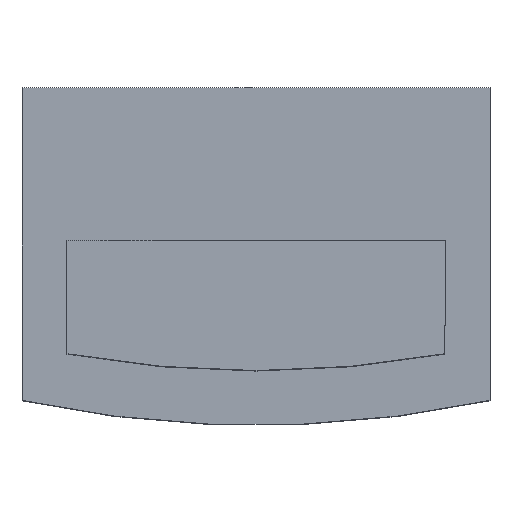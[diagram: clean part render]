
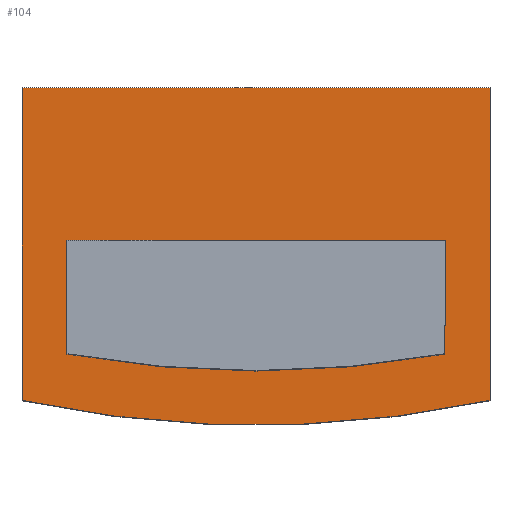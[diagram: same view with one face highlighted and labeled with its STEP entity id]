
A CAD part, top view. The second image highlights one B-rep face of the part: STEP entity #104.
In plain terms, the highlighted planar face has unit normal (0, 0, 1).
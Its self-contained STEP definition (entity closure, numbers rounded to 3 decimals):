
#8 = ORIENTED_EDGE ( 'NONE', *, *, #183, .F. ) ;
#20 = LINE ( 'NONE', #162, #319 ) ;
#34 = VERTEX_POINT ( 'NONE', #186 ) ;
#40 = DIRECTION ( 'NONE',  ( 0., 0., 1. ) ) ;
#46 = VERTEX_POINT ( 'NONE', #330 ) ;
#51 = DIRECTION ( 'NONE',  ( 1., 0., 0. ) ) ;
#58 = EDGE_CURVE ( 'NONE', #34, #46, #250, .T. ) ;
#67 = FACE_OUTER_BOUND ( 'NONE', #71, .T. ) ;
#71 = EDGE_LOOP ( 'NONE', ( #359, #211, #8, #203 ) ) ;
#80 = AXIS2_PLACEMENT_3D ( 'NONE', #367, #100, #221 ) ;
#88 = VERTEX_POINT ( 'NONE', #158 ) ;
#96 = EDGE_CURVE ( 'NONE', #208, #236, #252, .T. ) ;
#100 = DIRECTION ( 'NONE',  ( 0., 0., 1. ) ) ;
#104 = ADVANCED_FACE ( 'NONE', ( #333, #67 ), #276, .T. ) ;
#109 = DIRECTION ( 'NONE',  ( 1., 0., 0. ) ) ;
#121 = EDGE_LOOP ( 'NONE', ( #352, #323, #307, #144 ) ) ;
#123 = VERTEX_POINT ( 'NONE', #306 ) ;
#126 = AXIS2_PLACEMENT_3D ( 'NONE', #285, #164, #109 ) ;
#127 = CIRCLE ( 'NONE', #126, 25. ) ;
#137 = CARTESIAN_POINT ( 'NONE',  ( 10.4, 0., 5. ) ) ;
#144 = ORIENTED_EDGE ( 'NONE', *, *, #58, .F. ) ;
#150 = VERTEX_POINT ( 'NONE', #137 ) ;
#158 = CARTESIAN_POINT ( 'NONE',  ( 9.4, 3.553, 5. ) ) ;
#161 = VERTEX_POINT ( 'NONE', #200 ) ;
#162 = CARTESIAN_POINT ( 'NONE',  ( 10.4, 0., 5. ) ) ;
#163 = CARTESIAN_POINT ( 'NONE',  ( 0., 0., 5. ) ) ;
#164 = DIRECTION ( 'NONE',  ( 0., 0., 1. ) ) ;
#166 = LINE ( 'NONE', #163, #369 ) ;
#170 = CARTESIAN_POINT ( 'NONE',  ( 1., 0., 5. ) ) ;
#180 = AXIS2_PLACEMENT_3D ( 'NONE', #301, #40, #191 ) ;
#183 = EDGE_CURVE ( 'NONE', #236, #150, #20, .T. ) ;
#186 = CARTESIAN_POINT ( 'NONE',  ( 1., 1.027, 5. ) ) ;
#191 = DIRECTION ( 'NONE',  ( 1., 0., 0. ) ) ;
#192 = VECTOR ( 'NONE', #324, 1000. ) ;
#193 = DIRECTION ( 'NONE',  ( 0., 1., 0. ) ) ;
#196 = CARTESIAN_POINT ( 'NONE',  ( 0., 3.553, 5. ) ) ;
#200 = CARTESIAN_POINT ( 'NONE',  ( 0., 0., 5. ) ) ;
#203 = ORIENTED_EDGE ( 'NONE', *, *, #96, .F. ) ;
#207 = LINE ( 'NONE', #170, #192 ) ;
#208 = VERTEX_POINT ( 'NONE', #343 ) ;
#211 = ORIENTED_EDGE ( 'NONE', *, *, #275, .T. ) ;
#217 = CARTESIAN_POINT ( 'NONE',  ( 0., 6.953, 5. ) ) ;
#221 = DIRECTION ( 'NONE',  ( 1., 0., 0. ) ) ;
#236 = VERTEX_POINT ( 'NONE', #312 ) ;
#238 = DIRECTION ( 'NONE',  ( 0., -1., 0. ) ) ;
#248 = EDGE_CURVE ( 'NONE', #161, #208, #166, .T. ) ;
#250 = CIRCLE ( 'NONE', #180, 23.8 ) ;
#251 = VECTOR ( 'NONE', #238, 1000. ) ;
#252 = LINE ( 'NONE', #217, #341 ) ;
#269 = EDGE_CURVE ( 'NONE', #123, #88, #345, .T. ) ;
#275 = EDGE_CURVE ( 'NONE', #161, #150, #127, .T. ) ;
#276 = PLANE ( 'NONE',  #80 ) ;
#285 = CARTESIAN_POINT ( 'NONE',  ( 5.2, 24.453, 5. ) ) ;
#299 = DIRECTION ( 'NONE',  ( 1., 0., 0. ) ) ;
#301 = CARTESIAN_POINT ( 'NONE',  ( 5.2, 24.453, 5. ) ) ;
#306 = CARTESIAN_POINT ( 'NONE',  ( 1., 3.553, 5. ) ) ;
#307 = ORIENTED_EDGE ( 'NONE', *, *, #332, .T. ) ;
#310 = DIRECTION ( 'NONE',  ( 0., -1., 0. ) ) ;
#312 = CARTESIAN_POINT ( 'NONE',  ( 10.4, 6.953, 5. ) ) ;
#319 = VECTOR ( 'NONE', #310, 1000. ) ;
#323 = ORIENTED_EDGE ( 'NONE', *, *, #269, .T. ) ;
#324 = DIRECTION ( 'NONE',  ( 0., 1., 0. ) ) ;
#328 = VECTOR ( 'NONE', #51, 1000. ) ;
#330 = CARTESIAN_POINT ( 'NONE',  ( 9.4, 1.027, 5. ) ) ;
#332 = EDGE_CURVE ( 'NONE', #88, #46, #351, .T. ) ;
#333 = FACE_BOUND ( 'NONE', #121, .T. ) ;
#341 = VECTOR ( 'NONE', #299, 1000. ) ;
#343 = CARTESIAN_POINT ( 'NONE',  ( 0., 6.953, 5. ) ) ;
#345 = LINE ( 'NONE', #196, #328 ) ;
#351 = LINE ( 'NONE', #353, #251 ) ;
#352 = ORIENTED_EDGE ( 'NONE', *, *, #355, .T. ) ;
#353 = CARTESIAN_POINT ( 'NONE',  ( 9.4, 0., 5. ) ) ;
#355 = EDGE_CURVE ( 'NONE', #34, #123, #207, .T. ) ;
#359 = ORIENTED_EDGE ( 'NONE', *, *, #248, .F. ) ;
#367 = CARTESIAN_POINT ( 'NONE',  ( 0., 0., 5. ) ) ;
#369 = VECTOR ( 'NONE', #193, 1000. ) ;
